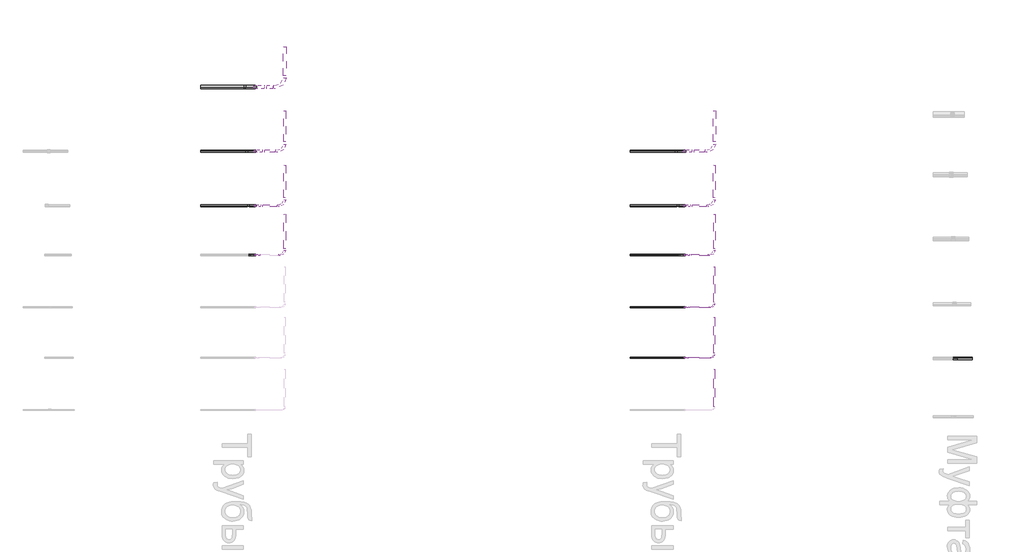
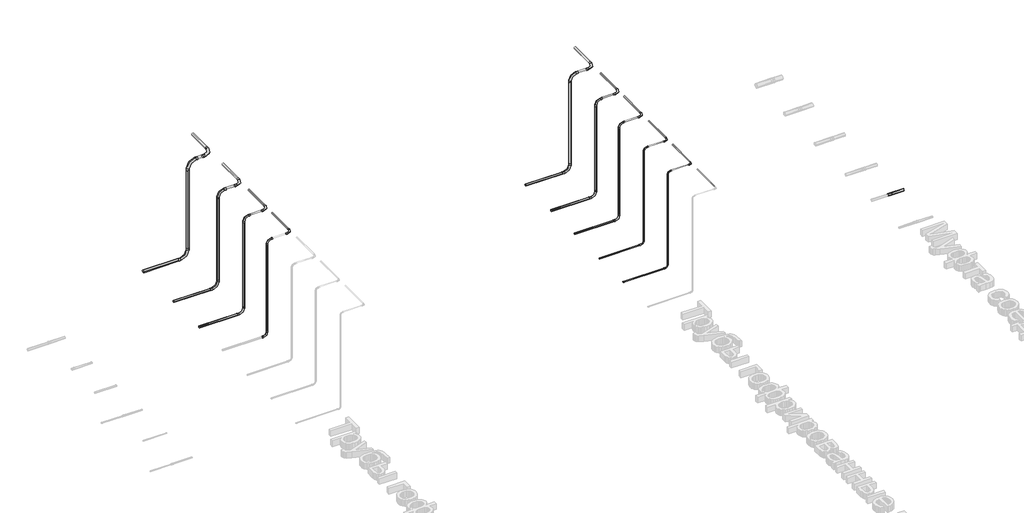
# One storey, part 9 of 33: 36 cable carrier segments, 28 cable carrier fittings.
"""IFC4 building model written with IfcOpenShell, lengths in millimetres."""

from ifc_helpers import new_model, si_unit, point, frame, frame_2d, origin, place, context, project, spatial, circle_curve, trimmed, segment, composite_curve, outline, extrude, transform, mapped, element, save
from components import cable_carrier_fitting_cf892bee, cable_carrier_fitting_309cf5c9, cable_carrier_fitting_d8a5bbfc, cable_carrier_fitting_d79e1a75, cable_carrier_fitting_36980800, cable_carrier_fitting_216e78f6, cable_carrier_fitting_60fb8931

model = new_model("IFC4")

# Units and contexts
model_context = context("Model", 3, world=origin())
ifc_project = project(units=[si_unit("LENGTHUNIT", "METRE", prefix="MILLI")], contexts=[model_context])

# Site, building, storey
site = spatial("IfcSite", under=ifc_project)
building = spatial("IfcBuilding", under=site)
storey = spatial("IfcBuildingStorey", under=building, Name="Уровень 1", Elevation=0.0)

# Cable carrier fittings
placement = place(None, origin())
cable_carrier_fitting_shape = cable_carrier_fitting_cf892bee(model_context)
element("IfcCableCarrierFitting", 1, ObjectType="Муфта соединительная для двустенной трубы : CTA12D-M050-K02", at=placement, inside=storey, context=model_context, shape_type="MappedRepresentation", body=[
    mapped(cable_carrier_fitting_shape, transform((89273.1911157, 1011.6836467, 45.929251), x_axis=(1.0, 0.0, 0.0), y_axis=(0.0, 1.0, 0.0), z_axis=(0.0, 0.0, 1.0))),
])
cable_carrier_fitting_2_shape = cable_carrier_fitting_309cf5c9(model_context)
element("IfcCableCarrierFitting", 2, ObjectType="Отвод Трубы гофрированные ПВХ с зондом : Отвод Трубы гофрированные ПВХ с зондом", at=placement, inside=storey, context=model_context, shape_type="MappedRepresentation", body=[
    mapped(cable_carrier_fitting_2_shape, transform((75094.4472755, 3107.6255993, 45.929251), x_axis=(1.0, 0.0, 0.0), y_axis=(0.0, 0.0, 1.0), z_axis=(0.0, -1.0, 0.0))),
])
element("IfcCableCarrierFitting", 3, ObjectType="Отвод Трубы гофрированные ПВХ с зондом : Отвод Трубы гофрированные ПВХ с зондом", at=placement, inside=storey, context=model_context, shape_type="MappedRepresentation", body=[
    mapped(cable_carrier_fitting_2_shape, transform((75094.4472755, 3107.6255993, 2545.929251), x_axis=(0.0, 0.0, 1.0), y_axis=(1.0, 0.0, 0.0), z_axis=(0.0, 1.0, 0.0))),
])
element("IfcCableCarrierFitting", 4, ObjectType="Отвод Трубы гофрированные ПВХ с зондом : Отвод Трубы гофрированные ПВХ с зондом", at=placement, inside=storey, context=model_context, shape_type="MappedRepresentation", body=[
    mapped(cable_carrier_fitting_2_shape, transform((75694.4472755, 3107.6255993, 2545.929251), x_axis=(1.0, 0.0, 0.0), y_axis=(0.0, 1.0, 0.0), z_axis=(0.0, 0.0, 1.0))),
])
cable_carrier_fitting_3_shape = cable_carrier_fitting_d8a5bbfc(model_context)
element("IfcCableCarrierFitting", 5, ObjectType="Отвод Трубы гофрированные ПВХ с зондом : Отвод Трубы гофрированные ПВХ с зондом", at=placement, inside=storey, context=model_context, shape_type="MappedRepresentation", body=[
    mapped(cable_carrier_fitting_3_shape, transform((75094.4472755, 4107.6255993, 45.929251), x_axis=(1.0, 0.0, 0.0), y_axis=(0.0, 0.0, 1.0), z_axis=(0.0, -1.0, 0.0))),
])
element("IfcCableCarrierFitting", 6, ObjectType="Отвод Трубы гофрированные ПВХ с зондом : Отвод Трубы гофрированные ПВХ с зондом", at=placement, inside=storey, context=model_context, shape_type="MappedRepresentation", body=[
    mapped(cable_carrier_fitting_3_shape, transform((75094.4472755, 4107.6255993, 2545.929251), x_axis=(0.0, 0.0, 1.0), y_axis=(1.0, 0.0, 0.0), z_axis=(0.0, 1.0, 0.0))),
])
element("IfcCableCarrierFitting", 7, ObjectType="Отвод Трубы гофрированные ПВХ с зондом : Отвод Трубы гофрированные ПВХ с зондом", at=placement, inside=storey, context=model_context, shape_type="MappedRepresentation", body=[
    mapped(cable_carrier_fitting_3_shape, transform((75694.4472755, 4107.6255993, 2545.929251), x_axis=(1.0, 0.0, 0.0), y_axis=(0.0, 1.0, 0.0), z_axis=(0.0, 0.0, 1.0))),
])
cable_carrier_fitting_4_shape = cable_carrier_fitting_d79e1a75(model_context)
element("IfcCableCarrierFitting", 8, ObjectType="Отвод Трубы гофрированные ПВХ с зондом : Отвод Трубы гофрированные ПВХ с зондом", at=placement, inside=storey, context=model_context, shape_type="MappedRepresentation", body=[
    mapped(cable_carrier_fitting_4_shape, transform((75094.4472755, 5207.6255993, 45.929251), x_axis=(1.0, 0.0, 0.0), y_axis=(0.0, 0.0, 1.0), z_axis=(0.0, -1.0, 0.0))),
])
element("IfcCableCarrierFitting", 9, ObjectType="Отвод Трубы гофрированные ПВХ с зондом : Отвод Трубы гофрированные ПВХ с зондом", at=placement, inside=storey, context=model_context, shape_type="MappedRepresentation", body=[
    mapped(cable_carrier_fitting_4_shape, transform((75094.4472755, 5207.6255993, 2545.929251), x_axis=(0.0, 0.0, 1.0), y_axis=(1.0, 0.0, 0.0), z_axis=(0.0, 1.0, 0.0))),
])
element("IfcCableCarrierFitting", 10, ObjectType="Отвод Трубы гофрированные ПВХ с зондом : Отвод Трубы гофрированные ПВХ с зондом", at=placement, inside=storey, context=model_context, shape_type="MappedRepresentation", body=[
    mapped(cable_carrier_fitting_4_shape, transform((75694.4472755, 5207.6255993, 2545.929251), x_axis=(1.0, 0.0, 0.0), y_axis=(0.0, 1.0, 0.0), z_axis=(0.0, 0.0, 1.0))),
])
cable_carrier_fitting_5_shape = cable_carrier_fitting_36980800(model_context)
element("IfcCableCarrierFitting", 11, ObjectType="Отвод Трубы гофрированные ПВХ с зондом : Отвод Трубы гофрированные ПВХ с зондом", at=placement, inside=storey, context=model_context, shape_type="MappedRepresentation", body=[
    mapped(cable_carrier_fitting_5_shape, transform((75094.4472755, 6507.6255993, 45.929251), x_axis=(1.0, 0.0, 0.0), y_axis=(0.0, 0.0, 1.0), z_axis=(0.0, -1.0, 0.0))),
])
element("IfcCableCarrierFitting", 12, ObjectType="Отвод Трубы гофрированные ПВХ с зондом : Отвод Трубы гофрированные ПВХ с зондом", at=placement, inside=storey, context=model_context, shape_type="MappedRepresentation", body=[
    mapped(cable_carrier_fitting_5_shape, transform((75094.4472755, 6507.6255993, 2545.929251), x_axis=(0.0, 0.0, 1.0), y_axis=(1.0, 0.0, 0.0), z_axis=(0.0, 1.0, 0.0))),
])
element("IfcCableCarrierFitting", 13, ObjectType="Отвод Трубы гофрированные ПВХ с зондом : Отвод Трубы гофрированные ПВХ с зондом", at=placement, inside=storey, context=model_context, shape_type="MappedRepresentation", body=[
    mapped(cable_carrier_fitting_5_shape, transform((75694.4472755, 6507.6255993, 2545.929251), x_axis=(1.0, 0.0, 0.0), y_axis=(0.0, 1.0, 0.0), z_axis=(0.0, 0.0, 1.0))),
])
cable_carrier_fitting_6_shape = cable_carrier_fitting_216e78f6(model_context)
element("IfcCableCarrierFitting", 14, ObjectType="Отвод Трубы гофрированные гибкие ПНД : Отвод Трубы гофрированные гибкие ПНД", at=placement, inside=storey, context=model_context, shape_type="MappedRepresentation", body=[
    mapped(cable_carrier_fitting_6_shape, transform((83794.4472755, 1027.6255993, 45.929251), x_axis=(1.0, 0.0, 0.0), y_axis=(0.0, 0.0, 1.0), z_axis=(0.0, -1.0, 0.0))),
])
element("IfcCableCarrierFitting", 15, ObjectType="Отвод Трубы гофрированные гибкие ПНД : Отвод Трубы гофрированные гибкие ПНД", at=placement, inside=storey, context=model_context, shape_type="MappedRepresentation", body=[
    mapped(cable_carrier_fitting_6_shape, transform((83794.4472755, 1027.6255993, 2545.929251), x_axis=(0.0, 0.0, 1.0), y_axis=(1.0, 0.0, 0.0), z_axis=(0.0, 1.0, 0.0))),
])
element("IfcCableCarrierFitting", 16, ObjectType="Отвод Трубы гофрированные гибкие ПНД : Отвод Трубы гофрированные гибкие ПНД", at=placement, inside=storey, context=model_context, shape_type="MappedRepresentation", body=[
    mapped(cable_carrier_fitting_6_shape, transform((84394.4472755, 1027.6255993, 2545.929251), x_axis=(1.0, 0.0, 0.0), y_axis=(0.0, 1.0, 0.0), z_axis=(0.0, 0.0, 1.0))),
])
cable_carrier_fitting_7_shape = cable_carrier_fitting_60fb8931(model_context)
element("IfcCableCarrierFitting", 17, ObjectType="Отвод Трубы гофрированные гибкие ПНД : Отвод Трубы гофрированные гибкие ПНД", at=placement, inside=storey, context=model_context, shape_type="MappedRepresentation", body=[
    mapped(cable_carrier_fitting_7_shape, transform((83794.4472755, 2047.6255993, 45.929251), x_axis=(1.0, 0.0, 0.0), y_axis=(0.0, 0.0, 1.0), z_axis=(0.0, -1.0, 0.0))),
])
element("IfcCableCarrierFitting", 18, ObjectType="Отвод Трубы гофрированные гибкие ПНД : Отвод Трубы гофрированные гибкие ПНД", at=placement, inside=storey, context=model_context, shape_type="MappedRepresentation", body=[
    mapped(cable_carrier_fitting_7_shape, transform((83794.4472755, 2047.6255993, 2545.929251), x_axis=(0.0, 0.0, 1.0), y_axis=(1.0, 0.0, 0.0), z_axis=(0.0, 1.0, 0.0))),
])
element("IfcCableCarrierFitting", 19, ObjectType="Отвод Трубы гофрированные гибкие ПНД : Отвод Трубы гофрированные гибкие ПНД", at=placement, inside=storey, context=model_context, shape_type="MappedRepresentation", body=[
    mapped(cable_carrier_fitting_7_shape, transform((84394.4472755, 2047.6255993, 2545.929251), x_axis=(1.0, 0.0, 0.0), y_axis=(0.0, 1.0, 0.0), z_axis=(0.0, 0.0, 1.0))),
])
element("IfcCableCarrierFitting", 20, ObjectType="Отвод Трубы гофрированные гибкие ПНД : Отвод Трубы гофрированные гибкие ПНД", at=placement, inside=storey, context=model_context, shape_type="MappedRepresentation", body=[
    mapped(cable_carrier_fitting_2_shape, transform((83794.4472755, 3107.6255993, 45.929251), x_axis=(1.0, 0.0, 0.0), y_axis=(0.0, 0.0, 1.0), z_axis=(0.0, -1.0, 0.0))),
])
element("IfcCableCarrierFitting", 21, ObjectType="Отвод Трубы гофрированные гибкие ПНД : Отвод Трубы гофрированные гибкие ПНД", at=placement, inside=storey, context=model_context, shape_type="MappedRepresentation", body=[
    mapped(cable_carrier_fitting_2_shape, transform((83794.4472755, 3107.6255993, 2545.929251), x_axis=(0.0, 0.0, 1.0), y_axis=(1.0, 0.0, 0.0), z_axis=(0.0, 1.0, 0.0))),
])
element("IfcCableCarrierFitting", 22, ObjectType="Отвод Трубы гофрированные гибкие ПНД : Отвод Трубы гофрированные гибкие ПНД", at=placement, inside=storey, context=model_context, shape_type="MappedRepresentation", body=[
    mapped(cable_carrier_fitting_2_shape, transform((84394.4472755, 3107.6255993, 2545.929251), x_axis=(1.0, 0.0, 0.0), y_axis=(0.0, 1.0, 0.0), z_axis=(0.0, 0.0, 1.0))),
])
element("IfcCableCarrierFitting", 23, ObjectType="Отвод Трубы гофрированные гибкие ПНД : Отвод Трубы гофрированные гибкие ПНД", at=placement, inside=storey, context=model_context, shape_type="MappedRepresentation", body=[
    mapped(cable_carrier_fitting_3_shape, transform((83794.4472755, 4107.6255993, 45.929251), x_axis=(1.0, 0.0, 0.0), y_axis=(0.0, 0.0, 1.0), z_axis=(0.0, -1.0, 0.0))),
])
element("IfcCableCarrierFitting", 24, ObjectType="Отвод Трубы гофрированные гибкие ПНД : Отвод Трубы гофрированные гибкие ПНД", at=placement, inside=storey, context=model_context, shape_type="MappedRepresentation", body=[
    mapped(cable_carrier_fitting_3_shape, transform((83794.4472755, 4107.6255993, 2545.929251), x_axis=(0.0, 0.0, 1.0), y_axis=(1.0, 0.0, 0.0), z_axis=(0.0, 1.0, 0.0))),
])
element("IfcCableCarrierFitting", 25, ObjectType="Отвод Трубы гофрированные гибкие ПНД : Отвод Трубы гофрированные гибкие ПНД", at=placement, inside=storey, context=model_context, shape_type="MappedRepresentation", body=[
    mapped(cable_carrier_fitting_3_shape, transform((84394.4472755, 4107.6255993, 2545.929251), x_axis=(1.0, 0.0, 0.0), y_axis=(0.0, 1.0, 0.0), z_axis=(0.0, 0.0, 1.0))),
])
element("IfcCableCarrierFitting", 26, ObjectType="Отвод Трубы гофрированные гибкие ПНД : Отвод Трубы гофрированные гибкие ПНД", at=placement, inside=storey, context=model_context, shape_type="MappedRepresentation", body=[
    mapped(cable_carrier_fitting_4_shape, transform((83794.4472755, 5207.6255993, 45.929251), x_axis=(1.0, 0.0, 0.0), y_axis=(0.0, 0.0, 1.0), z_axis=(0.0, -1.0, 0.0))),
])
element("IfcCableCarrierFitting", 27, ObjectType="Отвод Трубы гофрированные гибкие ПНД : Отвод Трубы гофрированные гибкие ПНД", at=placement, inside=storey, context=model_context, shape_type="MappedRepresentation", body=[
    mapped(cable_carrier_fitting_4_shape, transform((83794.4472755, 5207.6255993, 2545.929251), x_axis=(0.0, 0.0, 1.0), y_axis=(1.0, 0.0, 0.0), z_axis=(0.0, 1.0, 0.0))),
])
element("IfcCableCarrierFitting", 28, ObjectType="Отвод Трубы гофрированные гибкие ПНД : Отвод Трубы гофрированные гибкие ПНД", at=placement, inside=storey, context=model_context, shape_type="MappedRepresentation", body=[
    mapped(cable_carrier_fitting_4_shape, transform((84394.4472755, 5207.6255993, 2545.929251), x_axis=(1.0, 0.0, 0.0), y_axis=(0.0, 1.0, 0.0), z_axis=(0.0, 0.0, 1.0))),
])

# Cable carrier segments
element("IfcCableCarrierSegment", 29, ObjectType="Трубы гофрированные гибкие ПНД", at=placement, inside=storey, context=model_context, shape_type="SweptSolid", body=[
    extrude(outline(composite_curve([segment(trimmed(circle_curve(frame_2d((2545.929251, 84394.4472755)), 8.0), [point((2545.929251, 84402.4472755))], [point((2553.929251, 84394.4472755))], False, "CARTESIAN"), True, "CONTINUOUS"), segment(trimmed(circle_curve(frame_2d((2545.929251, 84394.4472755)), 8.0), [point((2553.929251, 84394.4472755))], [point((2545.929251, 84386.4472755))], False, "CARTESIAN"), True, "CONTINUOUS"), segment(trimmed(circle_curve(frame_2d((2545.929251, 84394.4472755)), 8.0), [point((2545.929251, 84386.4472755))], [point((2537.929251, 84394.4472755))], False, "CARTESIAN"), True, "CONTINUOUS"), segment(trimmed(circle_curve(frame_2d((2545.929251, 84394.4472755)), 8.0), [point((2537.929251, 84394.4472755))], [point((2545.929251, 84402.4472755))], False, "CARTESIAN"), True, "CONTINUOUS")], self_intersect=False)), frame((0.0, 34.7069993, 0.0), z_axis=(0.0, 1.0, 0.0), x_axis=(0.0, 0.0, 1.0)), (0.0, 0.0, 1.0), 752.9186),
])
element("IfcCableCarrierSegment", 30, ObjectType="Трубы гофрированные гибкие ПНД", at=placement, inside=storey, context=model_context, shape_type="SweptSolid", body=[
    extrude(outline(composite_curve([segment(trimmed(circle_curve(frame_2d((1027.6255993, 45.929251)), 10.0), [point((1017.6255993, 45.929251))], [point((1027.6255993, 55.929251))], False, "CARTESIAN"), True, "CONTINUOUS"), segment(trimmed(circle_curve(frame_2d((1027.6255993, 45.929251)), 10.0), [point((1027.6255993, 55.929251))], [point((1037.6255993, 45.929251))], False, "CARTESIAN"), True, "CONTINUOUS"), segment(trimmed(circle_curve(frame_2d((1027.6255993, 45.929251)), 10.0), [point((1037.6255993, 45.929251))], [point((1027.6255993, 35.929251))], False, "CARTESIAN"), True, "CONTINUOUS"), segment(trimmed(circle_curve(frame_2d((1027.6255993, 45.929251)), 10.0), [point((1027.6255993, 35.929251))], [point((1017.6255993, 45.929251))], False, "CARTESIAN"), True, "CONTINUOUS")], self_intersect=False)), frame((82694.4472755, 0.0, 0.0), z_axis=(1.0, 0.0, 0.0), x_axis=(0.0, 1.0, 0.0)), (0.0, 0.0, 1.0), 1016.5102),
])
element("IfcCableCarrierSegment", 31, ObjectType="Трубы гофрированные гибкие ПНД", at=placement, inside=storey, context=model_context, shape_type="SweptSolid", body=[
    extrude(outline(composite_curve([segment(trimmed(circle_curve(frame_2d((1027.6255993, 2545.929251)), 10.0), [point((1017.6255993, 2545.929251))], [point((1027.6255993, 2555.929251))], False, "CARTESIAN"), True, "CONTINUOUS"), segment(trimmed(circle_curve(frame_2d((1027.6255993, 2545.929251)), 10.0), [point((1027.6255993, 2555.929251))], [point((1037.6255993, 2545.929251))], False, "CARTESIAN"), True, "CONTINUOUS"), segment(trimmed(circle_curve(frame_2d((1027.6255993, 2545.929251)), 10.0), [point((1037.6255993, 2545.929251))], [point((1027.6255993, 2535.929251))], False, "CARTESIAN"), True, "CONTINUOUS"), segment(trimmed(circle_curve(frame_2d((1027.6255993, 2545.929251)), 10.0), [point((1027.6255993, 2535.929251))], [point((1017.6255993, 2545.929251))], False, "CARTESIAN"), True, "CONTINUOUS")], self_intersect=False)), frame((83877.9370755, 0.0, 0.0), z_axis=(1.0, 0.0, 0.0), x_axis=(0.0, 1.0, 0.0)), (0.0, 0.0, 1.0), 433.0204),
])
element("IfcCableCarrierSegment", 32, ObjectType="Трубы гофрированные гибкие ПНД", at=placement, inside=storey, context=model_context, shape_type="SweptSolid", body=[
    extrude(outline(composite_curve([segment(trimmed(circle_curve(frame_2d((83794.4472755, 1027.6255993)), 10.0), [point((83784.4472755, 1027.6255993))], [point((83794.4472755, 1037.6255993))], False, "CARTESIAN"), True, "CONTINUOUS"), segment(trimmed(circle_curve(frame_2d((83794.4472755, 1027.6255993)), 10.0), [point((83794.4472755, 1037.6255993))], [point((83804.4472755, 1027.6255993))], False, "CARTESIAN"), True, "CONTINUOUS"), segment(trimmed(circle_curve(frame_2d((83794.4472755, 1027.6255993)), 10.0), [point((83804.4472755, 1027.6255993))], [point((83794.4472755, 1017.6255993))], False, "CARTESIAN"), True, "CONTINUOUS"), segment(trimmed(circle_curve(frame_2d((83794.4472755, 1027.6255993)), 10.0), [point((83794.4472755, 1017.6255993))], [point((83784.4472755, 1027.6255993))], False, "CARTESIAN"), True, "CONTINUOUS")], self_intersect=False)), frame((0.0, 0.0, 129.419051), z_axis=(0.0, 0.0, 1.0), x_axis=(1.0, 0.0, 0.0)), (0.0, 0.0, 1.0), 2333.0204),
])
element("IfcCableCarrierSegment", 33, ObjectType="Трубы гофрированные гибкие ПНД", at=placement, inside=storey, context=model_context, shape_type="SweptSolid", body=[
    extrude(outline(composite_curve([segment(trimmed(circle_curve(frame_2d((2545.929251, 84394.4472755)), 10.0), [point((2545.929251, 84404.4472755))], [point((2555.929251, 84394.4472755))], False, "CARTESIAN"), True, "CONTINUOUS"), segment(trimmed(circle_curve(frame_2d((2545.929251, 84394.4472755)), 10.0), [point((2555.929251, 84394.4472755))], [point((2545.929251, 84384.4472755))], False, "CARTESIAN"), True, "CONTINUOUS"), segment(trimmed(circle_curve(frame_2d((2545.929251, 84394.4472755)), 10.0), [point((2545.929251, 84384.4472755))], [point((2535.929251, 84394.4472755))], False, "CARTESIAN"), True, "CONTINUOUS"), segment(trimmed(circle_curve(frame_2d((2545.929251, 84394.4472755)), 10.0), [point((2535.929251, 84394.4472755))], [point((2545.929251, 84404.4472755))], False, "CARTESIAN"), True, "CONTINUOUS")], self_intersect=False)), frame((0.0, 1111.1153993, 0.0), z_axis=(0.0, 1.0, 0.0), x_axis=(0.0, 0.0, 1.0)), (0.0, 0.0, 1.0), 736.5102),
])
element("IfcCableCarrierSegment", 34, ObjectType="Трубы гофрированные гибкие ПНД", at=placement, inside=storey, context=model_context, shape_type="SweptSolid", body=[
    extrude(outline(composite_curve([segment(trimmed(circle_curve(frame_2d((2047.6255993, 45.929251)), 12.5), [point((2035.1255993, 45.929251))], [point((2047.6255993, 58.429251))], False, "CARTESIAN"), True, "CONTINUOUS"), segment(trimmed(circle_curve(frame_2d((2047.6255993, 45.929251)), 12.5), [point((2047.6255993, 58.429251))], [point((2060.1255993, 45.929251))], False, "CARTESIAN"), True, "CONTINUOUS"), segment(trimmed(circle_curve(frame_2d((2047.6255993, 45.929251)), 12.5), [point((2060.1255993, 45.929251))], [point((2047.6255993, 33.429251))], False, "CARTESIAN"), True, "CONTINUOUS"), segment(trimmed(circle_curve(frame_2d((2047.6255993, 45.929251)), 12.5), [point((2047.6255993, 33.429251))], [point((2035.1255993, 45.929251))], False, "CARTESIAN"), True, "CONTINUOUS")], self_intersect=False)), frame((82694.4472755, 0.0, 0.0), z_axis=(1.0, 0.0, 0.0), x_axis=(0.0, 1.0, 0.0)), (0.0, 0.0, 1.0), 997.1046),
])
element("IfcCableCarrierSegment", 35, ObjectType="Трубы гофрированные гибкие ПНД", at=placement, inside=storey, context=model_context, shape_type="SweptSolid", body=[
    extrude(outline(composite_curve([segment(trimmed(circle_curve(frame_2d((2047.6255993, 2545.929251)), 12.5), [point((2035.1255993, 2545.929251))], [point((2047.6255993, 2558.429251))], False, "CARTESIAN"), True, "CONTINUOUS"), segment(trimmed(circle_curve(frame_2d((2047.6255993, 2545.929251)), 12.5), [point((2047.6255993, 2558.429251))], [point((2060.1255993, 2545.929251))], False, "CARTESIAN"), True, "CONTINUOUS"), segment(trimmed(circle_curve(frame_2d((2047.6255993, 2545.929251)), 12.5), [point((2060.1255993, 2545.929251))], [point((2047.6255993, 2533.429251))], False, "CARTESIAN"), True, "CONTINUOUS"), segment(trimmed(circle_curve(frame_2d((2047.6255993, 2545.929251)), 12.5), [point((2047.6255993, 2533.429251))], [point((2035.1255993, 2545.929251))], False, "CARTESIAN"), True, "CONTINUOUS")], self_intersect=False)), frame((83897.3426755, 0.0, 0.0), z_axis=(1.0, 0.0, 0.0), x_axis=(0.0, 1.0, 0.0)), (0.0, 0.0, 1.0), 394.2092),
])
element("IfcCableCarrierSegment", 36, ObjectType="Трубы гофрированные гибкие ПНД", at=placement, inside=storey, context=model_context, shape_type="SweptSolid", body=[
    extrude(outline(composite_curve([segment(trimmed(circle_curve(frame_2d((83794.4472755, 2047.6255993)), 12.5), [point((83781.9472755, 2047.6255993))], [point((83794.4472755, 2060.1255993))], False, "CARTESIAN"), True, "CONTINUOUS"), segment(trimmed(circle_curve(frame_2d((83794.4472755, 2047.6255993)), 12.5), [point((83794.4472755, 2060.1255993))], [point((83806.9472755, 2047.6255993))], False, "CARTESIAN"), True, "CONTINUOUS"), segment(trimmed(circle_curve(frame_2d((83794.4472755, 2047.6255993)), 12.5), [point((83806.9472755, 2047.6255993))], [point((83794.4472755, 2035.1255993))], False, "CARTESIAN"), True, "CONTINUOUS"), segment(trimmed(circle_curve(frame_2d((83794.4472755, 2047.6255993)), 12.5), [point((83794.4472755, 2035.1255993))], [point((83781.9472755, 2047.6255993))], False, "CARTESIAN"), True, "CONTINUOUS")], self_intersect=False)), frame((0.0, 0.0, 148.824651), z_axis=(0.0, 0.0, 1.0), x_axis=(1.0, 0.0, 0.0)), (0.0, 0.0, 1.0), 2294.2092),
])
element("IfcCableCarrierSegment", 37, ObjectType="Трубы гофрированные гибкие ПНД", at=placement, inside=storey, context=model_context, shape_type="SweptSolid", body=[
    extrude(outline(composite_curve([segment(trimmed(circle_curve(frame_2d((2545.929251, 84394.4472755)), 12.5), [point((2545.929251, 84406.9472755))], [point((2558.429251, 84394.4472755))], False, "CARTESIAN"), True, "CONTINUOUS"), segment(trimmed(circle_curve(frame_2d((2545.929251, 84394.4472755)), 12.5), [point((2558.429251, 84394.4472755))], [point((2545.929251, 84381.9472755))], False, "CARTESIAN"), True, "CONTINUOUS"), segment(trimmed(circle_curve(frame_2d((2545.929251, 84394.4472755)), 12.5), [point((2545.929251, 84381.9472755))], [point((2533.429251, 84394.4472755))], False, "CARTESIAN"), True, "CONTINUOUS"), segment(trimmed(circle_curve(frame_2d((2545.929251, 84394.4472755)), 12.5), [point((2533.429251, 84394.4472755))], [point((2545.929251, 84406.9472755))], False, "CARTESIAN"), True, "CONTINUOUS")], self_intersect=False)), frame((0.0, 2150.5209993, 0.0), z_axis=(0.0, 1.0, 0.0), x_axis=(0.0, 0.0, 1.0)), (0.0, 0.0, 1.0), 717.1046),
])
element("IfcCableCarrierSegment", 38, ObjectType="Трубы гофрированные гибкие ПНД", at=placement, inside=storey, context=model_context, shape_type="SweptSolid", body=[
    extrude(outline(composite_curve([segment(trimmed(circle_curve(frame_2d((3107.6255993, 45.929251)), 16.0), [point((3091.6255993, 45.929251))], [point((3107.6255993, 61.929251))], False, "CARTESIAN"), True, "CONTINUOUS"), segment(trimmed(circle_curve(frame_2d((3107.6255993, 45.929251)), 16.0), [point((3107.6255993, 61.929251))], [point((3123.6255993, 45.929251))], False, "CARTESIAN"), True, "CONTINUOUS"), segment(trimmed(circle_curve(frame_2d((3107.6255993, 45.929251)), 16.0), [point((3123.6255993, 45.929251))], [point((3107.6255993, 29.929251))], False, "CARTESIAN"), True, "CONTINUOUS"), segment(trimmed(circle_curve(frame_2d((3107.6255993, 45.929251)), 16.0), [point((3107.6255993, 29.929251))], [point((3091.6255993, 45.929251))], False, "CARTESIAN"), True, "CONTINUOUS")], self_intersect=False)), frame((82694.4472755, 0.0, 0.0), z_axis=(1.0, 0.0, 0.0), x_axis=(0.0, 1.0, 0.0)), (0.0, 0.0, 1.0), 971.73),
])
element("IfcCableCarrierSegment", 39, ObjectType="Трубы гофрированные гибкие ПНД", at=placement, inside=storey, context=model_context, shape_type="SweptSolid", body=[
    extrude(outline(composite_curve([segment(trimmed(circle_curve(frame_2d((3107.6255993, 2545.929251)), 16.0), [point((3091.6255993, 2545.929251))], [point((3107.6255993, 2561.929251))], False, "CARTESIAN"), True, "CONTINUOUS"), segment(trimmed(circle_curve(frame_2d((3107.6255993, 2545.929251)), 16.0), [point((3107.6255993, 2561.929251))], [point((3123.6255993, 2545.929251))], False, "CARTESIAN"), True, "CONTINUOUS"), segment(trimmed(circle_curve(frame_2d((3107.6255993, 2545.929251)), 16.0), [point((3123.6255993, 2545.929251))], [point((3107.6255993, 2529.929251))], False, "CARTESIAN"), True, "CONTINUOUS"), segment(trimmed(circle_curve(frame_2d((3107.6255993, 2545.929251)), 16.0), [point((3107.6255993, 2529.929251))], [point((3091.6255993, 2545.929251))], False, "CARTESIAN"), True, "CONTINUOUS")], self_intersect=False)), frame((83922.7172755, 0.0, 0.0), z_axis=(1.0, 0.0, 0.0), x_axis=(0.0, 1.0, 0.0)), (0.0, 0.0, 1.0), 343.46),
])
element("IfcCableCarrierSegment", 40, ObjectType="Трубы гофрированные гибкие ПНД", at=placement, inside=storey, context=model_context, shape_type="SweptSolid", body=[
    extrude(outline(composite_curve([segment(trimmed(circle_curve(frame_2d((83794.4472755, 3107.6255993)), 16.0), [point((83778.4472755, 3107.6255993))], [point((83794.4472755, 3123.6255993))], False, "CARTESIAN"), True, "CONTINUOUS"), segment(trimmed(circle_curve(frame_2d((83794.4472755, 3107.6255993)), 16.0), [point((83794.4472755, 3123.6255993))], [point((83810.4472755, 3107.6255993))], False, "CARTESIAN"), True, "CONTINUOUS"), segment(trimmed(circle_curve(frame_2d((83794.4472755, 3107.6255993)), 16.0), [point((83810.4472755, 3107.6255993))], [point((83794.4472755, 3091.6255993))], False, "CARTESIAN"), True, "CONTINUOUS"), segment(trimmed(circle_curve(frame_2d((83794.4472755, 3107.6255993)), 16.0), [point((83794.4472755, 3091.6255993))], [point((83778.4472755, 3107.6255993))], False, "CARTESIAN"), True, "CONTINUOUS")], self_intersect=False)), frame((0.0, 0.0, 174.199251), z_axis=(0.0, 0.0, 1.0), x_axis=(1.0, 0.0, 0.0)), (0.0, 0.0, 1.0), 2243.46),
])
element("IfcCableCarrierSegment", 41, ObjectType="Трубы гофрированные гибкие ПНД", at=placement, inside=storey, context=model_context, shape_type="SweptSolid", body=[
    extrude(outline(composite_curve([segment(trimmed(circle_curve(frame_2d((2545.929251, 84394.4472755)), 16.0), [point((2545.929251, 84410.4472755))], [point((2561.929251, 84394.4472755))], False, "CARTESIAN"), True, "CONTINUOUS"), segment(trimmed(circle_curve(frame_2d((2545.929251, 84394.4472755)), 16.0), [point((2561.929251, 84394.4472755))], [point((2545.929251, 84378.4472755))], False, "CARTESIAN"), True, "CONTINUOUS"), segment(trimmed(circle_curve(frame_2d((2545.929251, 84394.4472755)), 16.0), [point((2545.929251, 84378.4472755))], [point((2529.929251, 84394.4472755))], False, "CARTESIAN"), True, "CONTINUOUS"), segment(trimmed(circle_curve(frame_2d((2545.929251, 84394.4472755)), 16.0), [point((2529.929251, 84394.4472755))], [point((2545.929251, 84410.4472755))], False, "CARTESIAN"), True, "CONTINUOUS")], self_intersect=False)), frame((0.0, 3235.8955993, 0.0), z_axis=(0.0, 1.0, 0.0), x_axis=(0.0, 0.0, 1.0)), (0.0, 0.0, 1.0), 691.73),
])
element("IfcCableCarrierSegment", 42, ObjectType="Трубы гофрированные гибкие ПНД", at=placement, inside=storey, context=model_context, shape_type="SweptSolid", body=[
    extrude(outline(composite_curve([segment(trimmed(circle_curve(frame_2d((4107.6255993, 45.929251)), 20.0), [point((4087.6255993, 45.929251))], [point((4107.6255993, 65.929251))], False, "CARTESIAN"), True, "CONTINUOUS"), segment(trimmed(circle_curve(frame_2d((4107.6255993, 45.929251)), 20.0), [point((4107.6255993, 65.929251))], [point((4127.6255993, 45.929251))], False, "CARTESIAN"), True, "CONTINUOUS"), segment(trimmed(circle_curve(frame_2d((4107.6255993, 45.929251)), 20.0), [point((4127.6255993, 45.929251))], [point((4107.6255993, 25.929251))], False, "CARTESIAN"), True, "CONTINUOUS"), segment(trimmed(circle_curve(frame_2d((4107.6255993, 45.929251)), 20.0), [point((4107.6255993, 25.929251))], [point((4087.6255993, 45.929251))], False, "CARTESIAN"), True, "CONTINUOUS")], self_intersect=False)), frame((82694.4472755, 0.0, 0.0), z_axis=(1.0, 0.0, 0.0), x_axis=(0.0, 1.0, 0.0)), (0.0, 0.0, 1.0), 943.917),
])
element("IfcCableCarrierSegment", 43, ObjectType="Трубы гофрированные гибкие ПНД", at=placement, inside=storey, context=model_context, shape_type="SweptSolid", body=[
    extrude(outline(composite_curve([segment(trimmed(circle_curve(frame_2d((4107.6255993, 2545.929251)), 20.0), [point((4087.6255993, 2545.929251))], [point((4107.6255993, 2565.929251))], False, "CARTESIAN"), True, "CONTINUOUS"), segment(trimmed(circle_curve(frame_2d((4107.6255993, 2545.929251)), 20.0), [point((4107.6255993, 2565.929251))], [point((4127.6255993, 2545.929251))], False, "CARTESIAN"), True, "CONTINUOUS"), segment(trimmed(circle_curve(frame_2d((4107.6255993, 2545.929251)), 20.0), [point((4127.6255993, 2545.929251))], [point((4107.6255993, 2525.929251))], False, "CARTESIAN"), True, "CONTINUOUS"), segment(trimmed(circle_curve(frame_2d((4107.6255993, 2545.929251)), 20.0), [point((4107.6255993, 2525.929251))], [point((4087.6255993, 2545.929251))], False, "CARTESIAN"), True, "CONTINUOUS")], self_intersect=False)), frame((83950.5302755, 0.0, 0.0), z_axis=(1.0, 0.0, 0.0), x_axis=(0.0, 1.0, 0.0)), (0.0, 0.0, 1.0), 287.834),
])
element("IfcCableCarrierSegment", 44, ObjectType="Трубы гофрированные гибкие ПНД", at=placement, inside=storey, context=model_context, shape_type="SweptSolid", body=[
    extrude(outline(composite_curve([segment(trimmed(circle_curve(frame_2d((83794.4472755, 4107.6255993)), 20.0), [point((83774.4472755, 4107.6255993))], [point((83794.4472755, 4127.6255993))], False, "CARTESIAN"), True, "CONTINUOUS"), segment(trimmed(circle_curve(frame_2d((83794.4472755, 4107.6255993)), 20.0), [point((83794.4472755, 4127.6255993))], [point((83814.4472755, 4107.6255993))], False, "CARTESIAN"), True, "CONTINUOUS"), segment(trimmed(circle_curve(frame_2d((83794.4472755, 4107.6255993)), 20.0), [point((83814.4472755, 4107.6255993))], [point((83794.4472755, 4087.6255993))], False, "CARTESIAN"), True, "CONTINUOUS"), segment(trimmed(circle_curve(frame_2d((83794.4472755, 4107.6255993)), 20.0), [point((83794.4472755, 4087.6255993))], [point((83774.4472755, 4107.6255993))], False, "CARTESIAN"), True, "CONTINUOUS")], self_intersect=False)), frame((0.0, 0.0, 202.012251), z_axis=(0.0, 0.0, 1.0), x_axis=(1.0, 0.0, 0.0)), (0.0, 0.0, 1.0), 2187.834),
])
element("IfcCableCarrierSegment", 45, ObjectType="Трубы гофрированные гибкие ПНД", at=placement, inside=storey, context=model_context, shape_type="SweptSolid", body=[
    extrude(outline(composite_curve([segment(trimmed(circle_curve(frame_2d((2545.929251, 84394.4472755)), 20.0), [point((2545.929251, 84414.4472755))], [point((2565.929251, 84394.4472755))], False, "CARTESIAN"), True, "CONTINUOUS"), segment(trimmed(circle_curve(frame_2d((2545.929251, 84394.4472755)), 20.0), [point((2565.929251, 84394.4472755))], [point((2545.929251, 84374.4472755))], False, "CARTESIAN"), True, "CONTINUOUS"), segment(trimmed(circle_curve(frame_2d((2545.929251, 84394.4472755)), 20.0), [point((2545.929251, 84374.4472755))], [point((2525.929251, 84394.4472755))], False, "CARTESIAN"), True, "CONTINUOUS"), segment(trimmed(circle_curve(frame_2d((2545.929251, 84394.4472755)), 20.0), [point((2525.929251, 84394.4472755))], [point((2545.929251, 84414.4472755))], False, "CARTESIAN"), True, "CONTINUOUS")], self_intersect=False)), frame((0.0, 4263.7085993, 0.0), z_axis=(0.0, 1.0, 0.0), x_axis=(0.0, 0.0, 1.0)), (0.0, 0.0, 1.0), 663.917),
])
element("IfcCableCarrierSegment", 46, ObjectType="Трубы гофрированные гибкие ПНД", at=placement, inside=storey, context=model_context, shape_type="SweptSolid", body=[
    extrude(outline(composite_curve([segment(trimmed(circle_curve(frame_2d((5207.6255993, 45.929251)), 25.0), [point((5182.6255993, 45.929251))], [point((5207.6255993, 70.929251))], False, "CARTESIAN"), True, "CONTINUOUS"), segment(trimmed(circle_curve(frame_2d((5207.6255993, 45.929251)), 25.0), [point((5207.6255993, 70.929251))], [point((5232.6255993, 45.929251))], False, "CARTESIAN"), True, "CONTINUOUS"), segment(trimmed(circle_curve(frame_2d((5207.6255993, 45.929251)), 25.0), [point((5232.6255993, 45.929251))], [point((5207.6255993, 20.929251))], False, "CARTESIAN"), True, "CONTINUOUS"), segment(trimmed(circle_curve(frame_2d((5207.6255993, 45.929251)), 25.0), [point((5207.6255993, 20.929251))], [point((5182.6255993, 45.929251))], False, "CARTESIAN"), True, "CONTINUOUS")], self_intersect=False)), frame((82694.4472755, 0.0, 0.0), z_axis=(1.0, 0.0, 0.0), x_axis=(0.0, 1.0, 0.0)), (0.0, 0.0, 1.0), 909.5254),
])
element("IfcCableCarrierSegment", 47, ObjectType="Трубы гофрированные гибкие ПНД", at=placement, inside=storey, context=model_context, shape_type="SweptSolid", body=[
    extrude(outline(composite_curve([segment(trimmed(circle_curve(frame_2d((5207.6255993, 2545.929251)), 25.0), [point((5182.6255993, 2545.929251))], [point((5207.6255993, 2570.929251))], False, "CARTESIAN"), True, "CONTINUOUS"), segment(trimmed(circle_curve(frame_2d((5207.6255993, 2545.929251)), 25.0), [point((5207.6255993, 2570.929251))], [point((5232.6255993, 2545.929251))], False, "CARTESIAN"), True, "CONTINUOUS"), segment(trimmed(circle_curve(frame_2d((5207.6255993, 2545.929251)), 25.0), [point((5232.6255993, 2545.929251))], [point((5207.6255993, 2520.929251))], False, "CARTESIAN"), True, "CONTINUOUS"), segment(trimmed(circle_curve(frame_2d((5207.6255993, 2545.929251)), 25.0), [point((5207.6255993, 2520.929251))], [point((5182.6255993, 2545.929251))], False, "CARTESIAN"), True, "CONTINUOUS")], self_intersect=False)), frame((83984.9218755, 0.0, 0.0), z_axis=(1.0, 0.0, 0.0), x_axis=(0.0, 1.0, 0.0)), (0.0, 0.0, 1.0), 219.0508),
])
element("IfcCableCarrierSegment", 48, ObjectType="Трубы гофрированные гибкие ПНД", at=placement, inside=storey, context=model_context, shape_type="SweptSolid", body=[
    extrude(outline(composite_curve([segment(trimmed(circle_curve(frame_2d((83794.4472755, 5207.6255993)), 25.0), [point((83769.4472755, 5207.6255993))], [point((83794.4472755, 5232.6255993))], False, "CARTESIAN"), True, "CONTINUOUS"), segment(trimmed(circle_curve(frame_2d((83794.4472755, 5207.6255993)), 25.0), [point((83794.4472755, 5232.6255993))], [point((83819.4472755, 5207.6255993))], False, "CARTESIAN"), True, "CONTINUOUS"), segment(trimmed(circle_curve(frame_2d((83794.4472755, 5207.6255993)), 25.0), [point((83819.4472755, 5207.6255993))], [point((83794.4472755, 5182.6255993))], False, "CARTESIAN"), True, "CONTINUOUS"), segment(trimmed(circle_curve(frame_2d((83794.4472755, 5207.6255993)), 25.0), [point((83794.4472755, 5182.6255993))], [point((83769.4472755, 5207.6255993))], False, "CARTESIAN"), True, "CONTINUOUS")], self_intersect=False)), frame((0.0, 0.0, 236.403851), z_axis=(0.0, 0.0, 1.0), x_axis=(1.0, 0.0, 0.0)), (0.0, 0.0, 1.0), 2119.0508),
])
element("IfcCableCarrierSegment", 49, ObjectType="Трубы гофрированные гибкие ПНД", at=placement, inside=storey, context=model_context, shape_type="SweptSolid", body=[
    extrude(outline(composite_curve([segment(trimmed(circle_curve(frame_2d((2545.929251, 84394.4472755)), 25.0), [point((2545.929251, 84419.4472755))], [point((2570.929251, 84394.4472755))], False, "CARTESIAN"), True, "CONTINUOUS"), segment(trimmed(circle_curve(frame_2d((2545.929251, 84394.4472755)), 25.0), [point((2570.929251, 84394.4472755))], [point((2545.929251, 84369.4472755))], False, "CARTESIAN"), True, "CONTINUOUS"), segment(trimmed(circle_curve(frame_2d((2545.929251, 84394.4472755)), 25.0), [point((2545.929251, 84369.4472755))], [point((2520.929251, 84394.4472755))], False, "CARTESIAN"), True, "CONTINUOUS"), segment(trimmed(circle_curve(frame_2d((2545.929251, 84394.4472755)), 25.0), [point((2520.929251, 84394.4472755))], [point((2545.929251, 84419.4472755))], False, "CARTESIAN"), True, "CONTINUOUS")], self_intersect=False)), frame((0.0, 5398.1001993, 0.0), z_axis=(0.0, 1.0, 0.0), x_axis=(0.0, 0.0, 1.0)), (0.0, 0.0, 1.0), 629.5254),
])
element("IfcCableCarrierSegment", 50, ObjectType="Трубы гофрированные ПВХ с зондом", at=placement, inside=storey, context=model_context, shape_type="SweptSolid", body=[
    extrude(outline(composite_curve([segment(trimmed(circle_curve(frame_2d((75094.4472755, 3107.6255993)), 16.0), [point((75078.4472755, 3107.6255993))], [point((75094.4472755, 3123.6255993))], False, "CARTESIAN"), True, "CONTINUOUS"), segment(trimmed(circle_curve(frame_2d((75094.4472755, 3107.6255993)), 16.0), [point((75094.4472755, 3123.6255993))], [point((75110.4472755, 3107.6255993))], False, "CARTESIAN"), True, "CONTINUOUS"), segment(trimmed(circle_curve(frame_2d((75094.4472755, 3107.6255993)), 16.0), [point((75110.4472755, 3107.6255993))], [point((75094.4472755, 3091.6255993))], False, "CARTESIAN"), True, "CONTINUOUS"), segment(trimmed(circle_curve(frame_2d((75094.4472755, 3107.6255993)), 16.0), [point((75094.4472755, 3091.6255993))], [point((75078.4472755, 3107.6255993))], False, "CARTESIAN"), True, "CONTINUOUS")], self_intersect=False)), frame((0.0, 0.0, 174.199251), z_axis=(0.0, 0.0, 1.0), x_axis=(1.0, 0.0, 0.0)), (0.0, 0.0, 1.0), 2243.46),
])
element("IfcCableCarrierSegment", 51, ObjectType="Трубы гофрированные ПВХ с зондом", at=placement, inside=storey, context=model_context, shape_type="SweptSolid", body=[
    extrude(outline(composite_curve([segment(trimmed(circle_curve(frame_2d((2545.929251, 75694.4472755)), 16.0), [point((2545.929251, 75710.4472755))], [point((2561.929251, 75694.4472755))], False, "CARTESIAN"), True, "CONTINUOUS"), segment(trimmed(circle_curve(frame_2d((2545.929251, 75694.4472755)), 16.0), [point((2561.929251, 75694.4472755))], [point((2545.929251, 75678.4472755))], False, "CARTESIAN"), True, "CONTINUOUS"), segment(trimmed(circle_curve(frame_2d((2545.929251, 75694.4472755)), 16.0), [point((2545.929251, 75678.4472755))], [point((2529.929251, 75694.4472755))], False, "CARTESIAN"), True, "CONTINUOUS"), segment(trimmed(circle_curve(frame_2d((2545.929251, 75694.4472755)), 16.0), [point((2529.929251, 75694.4472755))], [point((2545.929251, 75710.4472755))], False, "CARTESIAN"), True, "CONTINUOUS")], self_intersect=False)), frame((0.0, 3235.8955993, 0.0), z_axis=(0.0, 1.0, 0.0), x_axis=(0.0, 0.0, 1.0)), (0.0, 0.0, 1.0), 691.73),
])
element("IfcCableCarrierSegment", 52, ObjectType="Трубы гофрированные ПВХ с зондом", at=placement, inside=storey, context=model_context, shape_type="SweptSolid", body=[
    extrude(outline(composite_curve([segment(trimmed(circle_curve(frame_2d((4107.6255993, 45.929251)), 20.0), [point((4087.6255993, 45.929251))], [point((4107.6255993, 65.929251))], False, "CARTESIAN"), True, "CONTINUOUS"), segment(trimmed(circle_curve(frame_2d((4107.6255993, 45.929251)), 20.0), [point((4107.6255993, 65.929251))], [point((4127.6255993, 45.929251))], False, "CARTESIAN"), True, "CONTINUOUS"), segment(trimmed(circle_curve(frame_2d((4107.6255993, 45.929251)), 20.0), [point((4127.6255993, 45.929251))], [point((4107.6255993, 25.929251))], False, "CARTESIAN"), True, "CONTINUOUS"), segment(trimmed(circle_curve(frame_2d((4107.6255993, 45.929251)), 20.0), [point((4107.6255993, 25.929251))], [point((4087.6255993, 45.929251))], False, "CARTESIAN"), True, "CONTINUOUS")], self_intersect=False)), frame((73994.4472755, 0.0, 0.0), z_axis=(1.0, 0.0, 0.0), x_axis=(0.0, 1.0, 0.0)), (0.0, 0.0, 1.0), 943.917),
])
element("IfcCableCarrierSegment", 53, ObjectType="Трубы гофрированные ПВХ с зондом", at=placement, inside=storey, context=model_context, shape_type="SweptSolid", body=[
    extrude(outline(composite_curve([segment(trimmed(circle_curve(frame_2d((4107.6255993, 2545.929251)), 20.0), [point((4087.6255993, 2545.929251))], [point((4107.6255993, 2565.929251))], False, "CARTESIAN"), True, "CONTINUOUS"), segment(trimmed(circle_curve(frame_2d((4107.6255993, 2545.929251)), 20.0), [point((4107.6255993, 2565.929251))], [point((4127.6255993, 2545.929251))], False, "CARTESIAN"), True, "CONTINUOUS"), segment(trimmed(circle_curve(frame_2d((4107.6255993, 2545.929251)), 20.0), [point((4127.6255993, 2545.929251))], [point((4107.6255993, 2525.929251))], False, "CARTESIAN"), True, "CONTINUOUS"), segment(trimmed(circle_curve(frame_2d((4107.6255993, 2545.929251)), 20.0), [point((4107.6255993, 2525.929251))], [point((4087.6255993, 2545.929251))], False, "CARTESIAN"), True, "CONTINUOUS")], self_intersect=False)), frame((75250.5302755, 0.0, 0.0), z_axis=(1.0, 0.0, 0.0), x_axis=(0.0, 1.0, 0.0)), (0.0, 0.0, 1.0), 287.834),
])
element("IfcCableCarrierSegment", 54, ObjectType="Трубы гофрированные ПВХ с зондом", at=placement, inside=storey, context=model_context, shape_type="SweptSolid", body=[
    extrude(outline(composite_curve([segment(trimmed(circle_curve(frame_2d((75094.4472755, 4107.6255993)), 20.0), [point((75074.4472755, 4107.6255993))], [point((75094.4472755, 4127.6255993))], False, "CARTESIAN"), True, "CONTINUOUS"), segment(trimmed(circle_curve(frame_2d((75094.4472755, 4107.6255993)), 20.0), [point((75094.4472755, 4127.6255993))], [point((75114.4472755, 4107.6255993))], False, "CARTESIAN"), True, "CONTINUOUS"), segment(trimmed(circle_curve(frame_2d((75094.4472755, 4107.6255993)), 20.0), [point((75114.4472755, 4107.6255993))], [point((75094.4472755, 4087.6255993))], False, "CARTESIAN"), True, "CONTINUOUS"), segment(trimmed(circle_curve(frame_2d((75094.4472755, 4107.6255993)), 20.0), [point((75094.4472755, 4087.6255993))], [point((75074.4472755, 4107.6255993))], False, "CARTESIAN"), True, "CONTINUOUS")], self_intersect=False)), frame((0.0, 0.0, 202.012251), z_axis=(0.0, 0.0, 1.0), x_axis=(1.0, 0.0, 0.0)), (0.0, 0.0, 1.0), 2187.834),
])
element("IfcCableCarrierSegment", 55, ObjectType="Трубы гофрированные ПВХ с зондом", at=placement, inside=storey, context=model_context, shape_type="SweptSolid", body=[
    extrude(outline(composite_curve([segment(trimmed(circle_curve(frame_2d((2545.929251, 75694.4472755)), 20.0), [point((2545.929251, 75714.4472755))], [point((2565.929251, 75694.4472755))], False, "CARTESIAN"), True, "CONTINUOUS"), segment(trimmed(circle_curve(frame_2d((2545.929251, 75694.4472755)), 20.0), [point((2565.929251, 75694.4472755))], [point((2545.929251, 75674.4472755))], False, "CARTESIAN"), True, "CONTINUOUS"), segment(trimmed(circle_curve(frame_2d((2545.929251, 75694.4472755)), 20.0), [point((2545.929251, 75674.4472755))], [point((2525.929251, 75694.4472755))], False, "CARTESIAN"), True, "CONTINUOUS"), segment(trimmed(circle_curve(frame_2d((2545.929251, 75694.4472755)), 20.0), [point((2525.929251, 75694.4472755))], [point((2545.929251, 75714.4472755))], False, "CARTESIAN"), True, "CONTINUOUS")], self_intersect=False)), frame((0.0, 4263.7085993, 0.0), z_axis=(0.0, 1.0, 0.0), x_axis=(0.0, 0.0, 1.0)), (0.0, 0.0, 1.0), 663.917),
])
element("IfcCableCarrierSegment", 56, ObjectType="Трубы гофрированные ПВХ с зондом", at=placement, inside=storey, context=model_context, shape_type="SweptSolid", body=[
    extrude(outline(composite_curve([segment(trimmed(circle_curve(frame_2d((5207.6255993, 45.929251)), 25.0), [point((5182.6255993, 45.929251))], [point((5207.6255993, 70.929251))], False, "CARTESIAN"), True, "CONTINUOUS"), segment(trimmed(circle_curve(frame_2d((5207.6255993, 45.929251)), 25.0), [point((5207.6255993, 70.929251))], [point((5232.6255993, 45.929251))], False, "CARTESIAN"), True, "CONTINUOUS"), segment(trimmed(circle_curve(frame_2d((5207.6255993, 45.929251)), 25.0), [point((5232.6255993, 45.929251))], [point((5207.6255993, 20.929251))], False, "CARTESIAN"), True, "CONTINUOUS"), segment(trimmed(circle_curve(frame_2d((5207.6255993, 45.929251)), 25.0), [point((5207.6255993, 20.929251))], [point((5182.6255993, 45.929251))], False, "CARTESIAN"), True, "CONTINUOUS")], self_intersect=False)), frame((73994.4472755, 0.0, 0.0), z_axis=(1.0, 0.0, 0.0), x_axis=(0.0, 1.0, 0.0)), (0.0, 0.0, 1.0), 909.5254),
])
element("IfcCableCarrierSegment", 57, ObjectType="Трубы гофрированные ПВХ с зондом", at=placement, inside=storey, context=model_context, shape_type="SweptSolid", body=[
    extrude(outline(composite_curve([segment(trimmed(circle_curve(frame_2d((5207.6255993, 2545.929251)), 25.0), [point((5182.6255993, 2545.929251))], [point((5207.6255993, 2570.929251))], False, "CARTESIAN"), True, "CONTINUOUS"), segment(trimmed(circle_curve(frame_2d((5207.6255993, 2545.929251)), 25.0), [point((5207.6255993, 2570.929251))], [point((5232.6255993, 2545.929251))], False, "CARTESIAN"), True, "CONTINUOUS"), segment(trimmed(circle_curve(frame_2d((5207.6255993, 2545.929251)), 25.0), [point((5232.6255993, 2545.929251))], [point((5207.6255993, 2520.929251))], False, "CARTESIAN"), True, "CONTINUOUS"), segment(trimmed(circle_curve(frame_2d((5207.6255993, 2545.929251)), 25.0), [point((5207.6255993, 2520.929251))], [point((5182.6255993, 2545.929251))], False, "CARTESIAN"), True, "CONTINUOUS")], self_intersect=False)), frame((75284.9218755, 0.0, 0.0), z_axis=(1.0, 0.0, 0.0), x_axis=(0.0, 1.0, 0.0)), (0.0, 0.0, 1.0), 219.0508),
])
element("IfcCableCarrierSegment", 58, ObjectType="Трубы гофрированные ПВХ с зондом", at=placement, inside=storey, context=model_context, shape_type="SweptSolid", body=[
    extrude(outline(composite_curve([segment(trimmed(circle_curve(frame_2d((75094.4472755, 5207.6255993)), 25.0), [point((75069.4472755, 5207.6255993))], [point((75094.4472755, 5232.6255993))], False, "CARTESIAN"), True, "CONTINUOUS"), segment(trimmed(circle_curve(frame_2d((75094.4472755, 5207.6255993)), 25.0), [point((75094.4472755, 5232.6255993))], [point((75119.4472755, 5207.6255993))], False, "CARTESIAN"), True, "CONTINUOUS"), segment(trimmed(circle_curve(frame_2d((75094.4472755, 5207.6255993)), 25.0), [point((75119.4472755, 5207.6255993))], [point((75094.4472755, 5182.6255993))], False, "CARTESIAN"), True, "CONTINUOUS"), segment(trimmed(circle_curve(frame_2d((75094.4472755, 5207.6255993)), 25.0), [point((75094.4472755, 5182.6255993))], [point((75069.4472755, 5207.6255993))], False, "CARTESIAN"), True, "CONTINUOUS")], self_intersect=False)), frame((0.0, 0.0, 236.403851), z_axis=(0.0, 0.0, 1.0), x_axis=(1.0, 0.0, 0.0)), (0.0, 0.0, 1.0), 2119.0508),
])
element("IfcCableCarrierSegment", 59, ObjectType="Трубы гофрированные ПВХ с зондом", at=placement, inside=storey, context=model_context, shape_type="SweptSolid", body=[
    extrude(outline(composite_curve([segment(trimmed(circle_curve(frame_2d((2545.929251, 75694.4472755)), 25.0), [point((2545.929251, 75719.4472755))], [point((2570.929251, 75694.4472755))], False, "CARTESIAN"), True, "CONTINUOUS"), segment(trimmed(circle_curve(frame_2d((2545.929251, 75694.4472755)), 25.0), [point((2570.929251, 75694.4472755))], [point((2545.929251, 75669.4472755))], False, "CARTESIAN"), True, "CONTINUOUS"), segment(trimmed(circle_curve(frame_2d((2545.929251, 75694.4472755)), 25.0), [point((2545.929251, 75669.4472755))], [point((2520.929251, 75694.4472755))], False, "CARTESIAN"), True, "CONTINUOUS"), segment(trimmed(circle_curve(frame_2d((2545.929251, 75694.4472755)), 25.0), [point((2520.929251, 75694.4472755))], [point((2545.929251, 75719.4472755))], False, "CARTESIAN"), True, "CONTINUOUS")], self_intersect=False)), frame((0.0, 5398.1001993, 0.0), z_axis=(0.0, 1.0, 0.0), x_axis=(0.0, 0.0, 1.0)), (0.0, 0.0, 1.0), 629.5254),
])
element("IfcCableCarrierSegment", 60, ObjectType="Трубы гофрированные ПВХ с зондом", at=placement, inside=storey, context=model_context, shape_type="SweptSolid", body=[
    extrude(outline(composite_curve([segment(trimmed(circle_curve(frame_2d((6507.6255993, 45.929251)), 31.5), [point((6476.1255993, 45.929251))], [point((6507.6255993, 77.429251))], False, "CARTESIAN"), True, "CONTINUOUS"), segment(trimmed(circle_curve(frame_2d((6507.6255993, 45.929251)), 31.5), [point((6507.6255993, 77.429251))], [point((6539.1255993, 45.929251))], False, "CARTESIAN"), True, "CONTINUOUS"), segment(trimmed(circle_curve(frame_2d((6507.6255993, 45.929251)), 31.5), [point((6539.1255993, 45.929251))], [point((6507.6255993, 14.429251))], False, "CARTESIAN"), True, "CONTINUOUS"), segment(trimmed(circle_curve(frame_2d((6507.6255993, 45.929251)), 31.5), [point((6507.6255993, 14.429251))], [point((6476.1255993, 45.929251))], False, "CARTESIAN"), True, "CONTINUOUS")], self_intersect=False)), frame((73994.4472755, 0.0, 0.0), z_axis=(1.0, 0.0, 0.0), x_axis=(0.0, 1.0, 0.0)), (0.0, 0.0, 1.0), 867.02),
])
element("IfcCableCarrierSegment", 61, ObjectType="Трубы гофрированные ПВХ с зондом", at=placement, inside=storey, context=model_context, shape_type="SweptSolid", body=[
    extrude(outline(composite_curve([segment(trimmed(circle_curve(frame_2d((6507.6255993, 2545.929251)), 31.5), [point((6476.1255993, 2545.929251))], [point((6507.6255993, 2577.429251))], False, "CARTESIAN"), True, "CONTINUOUS"), segment(trimmed(circle_curve(frame_2d((6507.6255993, 2545.929251)), 31.5), [point((6507.6255993, 2577.429251))], [point((6539.1255993, 2545.929251))], False, "CARTESIAN"), True, "CONTINUOUS"), segment(trimmed(circle_curve(frame_2d((6507.6255993, 2545.929251)), 31.5), [point((6539.1255993, 2545.929251))], [point((6507.6255993, 2514.429251))], False, "CARTESIAN"), True, "CONTINUOUS"), segment(trimmed(circle_curve(frame_2d((6507.6255993, 2545.929251)), 31.5), [point((6507.6255993, 2514.429251))], [point((6476.1255993, 2545.929251))], False, "CARTESIAN"), True, "CONTINUOUS")], self_intersect=False)), frame((75327.4272755, 0.0, 0.0), z_axis=(1.0, 0.0, 0.0), x_axis=(0.0, 1.0, 0.0)), (0.0, 0.0, 1.0), 134.04),
])
element("IfcCableCarrierSegment", 62, ObjectType="Трубы гофрированные ПВХ с зондом", at=placement, inside=storey, context=model_context, shape_type="SweptSolid", body=[
    extrude(outline(composite_curve([segment(trimmed(circle_curve(frame_2d((75094.4472755, 6507.6255993)), 31.5), [point((75062.9472755, 6507.6255993))], [point((75094.4472755, 6539.1255993))], False, "CARTESIAN"), True, "CONTINUOUS"), segment(trimmed(circle_curve(frame_2d((75094.4472755, 6507.6255993)), 31.5), [point((75094.4472755, 6539.1255993))], [point((75125.9472755, 6507.6255993))], False, "CARTESIAN"), True, "CONTINUOUS"), segment(trimmed(circle_curve(frame_2d((75094.4472755, 6507.6255993)), 31.5), [point((75125.9472755, 6507.6255993))], [point((75094.4472755, 6476.1255993))], False, "CARTESIAN"), True, "CONTINUOUS"), segment(trimmed(circle_curve(frame_2d((75094.4472755, 6507.6255993)), 31.5), [point((75094.4472755, 6476.1255993))], [point((75062.9472755, 6507.6255993))], False, "CARTESIAN"), True, "CONTINUOUS")], self_intersect=False)), frame((0.0, 0.0, 278.909251), z_axis=(0.0, 0.0, 1.0), x_axis=(1.0, 0.0, 0.0)), (0.0, 0.0, 1.0), 2034.04),
])
element("IfcCableCarrierSegment", 63, ObjectType="Трубы гофрированные ПВХ с зондом", at=placement, inside=storey, context=model_context, shape_type="SweptSolid", body=[
    extrude(outline(composite_curve([segment(trimmed(circle_curve(frame_2d((2545.929251, 75694.4472755)), 31.5), [point((2545.929251, 75725.9472755))], [point((2577.429251, 75694.4472755))], False, "CARTESIAN"), True, "CONTINUOUS"), segment(trimmed(circle_curve(frame_2d((2545.929251, 75694.4472755)), 31.5), [point((2577.429251, 75694.4472755))], [point((2545.929251, 75662.9472755))], False, "CARTESIAN"), True, "CONTINUOUS"), segment(trimmed(circle_curve(frame_2d((2545.929251, 75694.4472755)), 31.5), [point((2545.929251, 75662.9472755))], [point((2514.429251, 75694.4472755))], False, "CARTESIAN"), True, "CONTINUOUS"), segment(trimmed(circle_curve(frame_2d((2545.929251, 75694.4472755)), 31.5), [point((2514.429251, 75694.4472755))], [point((2545.929251, 75725.9472755))], False, "CARTESIAN"), True, "CONTINUOUS")], self_intersect=False)), frame((0.0, 6740.6055993, 0.0), z_axis=(0.0, 1.0, 0.0), x_axis=(0.0, 0.0, 1.0)), (0.0, 0.0, 1.0), 587.02),
])
element("IfcCableCarrierSegment", 64, ObjectType="Трубы гофрированные двустенные ПНД/ПВД", at=placement, inside=storey, context=model_context, shape_type="SweptSolid", body=[
    extrude(outline(composite_curve([segment(trimmed(circle_curve(frame_2d((1011.6836467, 45.929251)), 25.0), [point((986.6836467, 45.929251))], [point((1011.6836467, 70.929251))], False, "CARTESIAN"), True, "CONTINUOUS"), segment(trimmed(circle_curve(frame_2d((1011.6836467, 45.929251)), 25.0), [point((1011.6836467, 70.929251))], [point((1036.6836467, 45.929251))], False, "CARTESIAN"), True, "CONTINUOUS"), segment(trimmed(circle_curve(frame_2d((1011.6836467, 45.929251)), 25.0), [point((1036.6836467, 45.929251))], [point((1011.6836467, 20.929251))], False, "CARTESIAN"), True, "CONTINUOUS"), segment(trimmed(circle_curve(frame_2d((1011.6836467, 45.929251)), 25.0), [point((1011.6836467, 20.929251))], [point((986.6836467, 45.929251))], False, "CARTESIAN"), True, "CONTINUOUS")], self_intersect=False)), frame((89278.1911157, 0.0, 0.0), z_axis=(1.0, 0.0, 0.0), x_axis=(0.0, 1.0, 0.0)), (0.0, 0.0, 1.0), 338.3446907),
])

save(model, "model.ifc")
